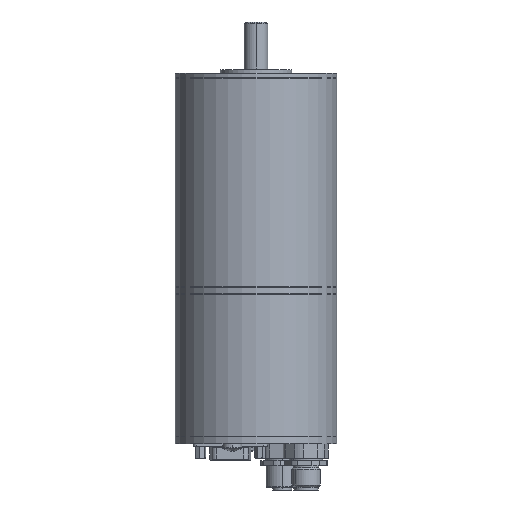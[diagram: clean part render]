
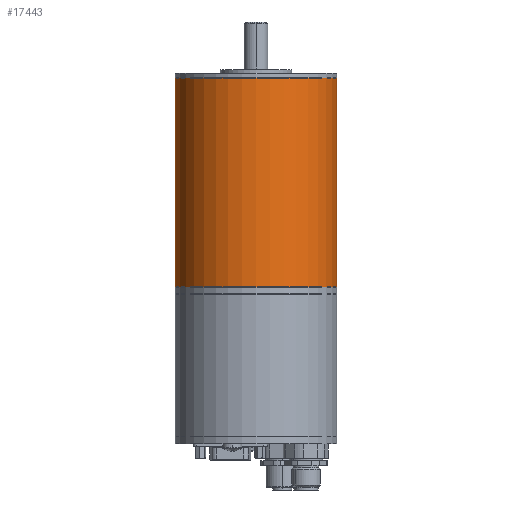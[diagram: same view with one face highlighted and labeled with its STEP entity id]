
A CAD part, left-side view. The second image highlights one B-rep face of the part: STEP entity #17443.
In plain terms, the highlighted cylindrical face has radius 34 mm (diameter 68 mm), a partial arc.
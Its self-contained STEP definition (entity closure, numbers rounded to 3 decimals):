
#17254 = EDGE_CURVE ( 'NONE', #17288, #17352, #20483, .T. ) ;
#17288 = VERTEX_POINT ( 'NONE', #20549 ) ;
#17290 = VERTEX_POINT ( 'NONE', #20543 ) ;
#17344 = EDGE_CURVE ( 'NONE', #17290, #17345, #18835, .T. ) ;
#17345 = VERTEX_POINT ( 'NONE', #18799 ) ;
#17352 = VERTEX_POINT ( 'NONE', #18872 ) ;
#17380 = EDGE_CURVE ( 'NONE', #17345, #17352, #18844, .T. ) ;
#17384 = ORIENTED_EDGE ( 'NONE', *, *, #17386, .T. ) ;
#17386 = EDGE_CURVE ( 'NONE', #17290, #17288, #18882, .T. ) ;
#17439 = ORIENTED_EDGE ( 'NONE', *, *, #17344, .F. ) ;
#17443 = ADVANCED_FACE ( 'NONE', ( #23083 ), #23135, .T. ) ;
#17446 = ORIENTED_EDGE ( 'NONE', *, *, #17254, .T. ) ;
#17449 = ORIENTED_EDGE ( 'NONE', *, *, #17380, .F. ) ;
#17455 = EDGE_LOOP ( 'NONE', ( #17439, #17384, #17446, #17449 ) ) ;
#18799 = CARTESIAN_POINT ( 'NONE',  ( 0., 34., -3.6 ) ) ;
#18832 = DIRECTION ( 'NONE',  ( 0., 0., 1. ) ) ;
#18833 = VECTOR ( 'NONE', #18832, 1000. ) ;
#18834 = CARTESIAN_POINT ( 'NONE',  ( 0., 34., 163.181 ) ) ;
#18835 = LINE ( 'NONE', #18834, #18833 ) ;
#18844 = CIRCLE ( 'NONE', #18888, 34. ) ;
#18872 = CARTESIAN_POINT ( 'NONE',  ( 0., -34., -3.6 ) ) ;
#18882 = CIRCLE ( 'NONE', #18895, 34. ) ;
#18886 = DIRECTION ( 'NONE',  ( 0., -1., 0. ) ) ;
#18887 = DIRECTION ( 'NONE',  ( 0., 0., 1. ) ) ;
#18888 = AXIS2_PLACEMENT_3D ( 'NONE', #18894, #18887, #18886 ) ;
#18894 = CARTESIAN_POINT ( 'NONE',  ( 0., 0., -3.6 ) ) ;
#18895 = AXIS2_PLACEMENT_3D ( 'NONE', #18913, #18912, #18911 ) ;
#18911 = DIRECTION ( 'NONE',  ( 0., -1., 0. ) ) ;
#18912 = DIRECTION ( 'NONE',  ( 0., 0., 1. ) ) ;
#18913 = CARTESIAN_POINT ( 'NONE',  ( 0., 0., -91.4 ) ) ;
#20476 = DIRECTION ( 'NONE',  ( 0., 0., 1. ) ) ;
#20477 = VECTOR ( 'NONE', #20476, 1000. ) ;
#20478 = CARTESIAN_POINT ( 'NONE',  ( 0., -34., 163.181 ) ) ;
#20483 = LINE ( 'NONE', #20478, #20477 ) ;
#20543 = CARTESIAN_POINT ( 'NONE',  ( 0., 34., -91.4 ) ) ;
#20549 = CARTESIAN_POINT ( 'NONE',  ( 0., -34., -91.4 ) ) ;
#23083 = FACE_OUTER_BOUND ( 'NONE', #17455, .T. ) ;
#23131 = AXIS2_PLACEMENT_3D ( 'NONE', #23133, #23140, #23163 ) ;
#23133 = CARTESIAN_POINT ( 'NONE',  ( 0., 0., 163.181 ) ) ;
#23135 = CYLINDRICAL_SURFACE ( 'NONE', #23131, 34. ) ;
#23140 = DIRECTION ( 'NONE',  ( 0., 0., 1. ) ) ;
#23163 = DIRECTION ( 'NONE',  ( 0., -1., 0. ) ) ;
